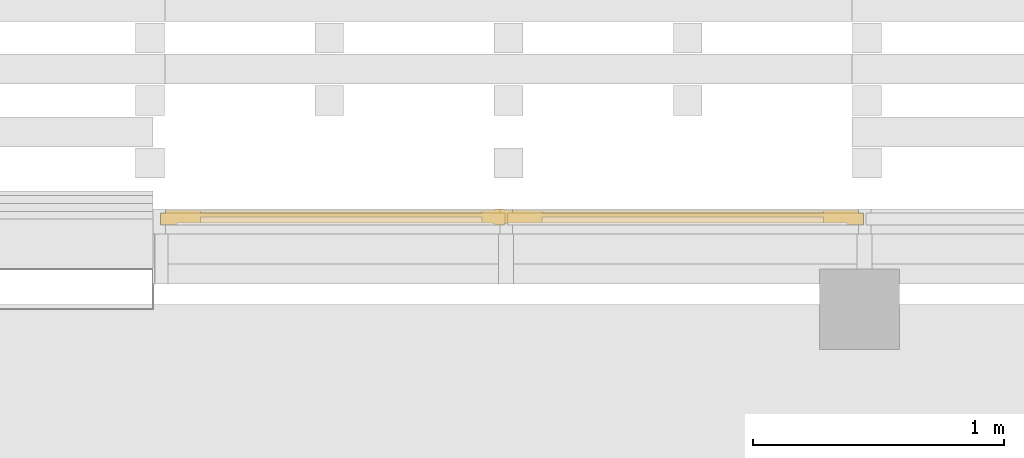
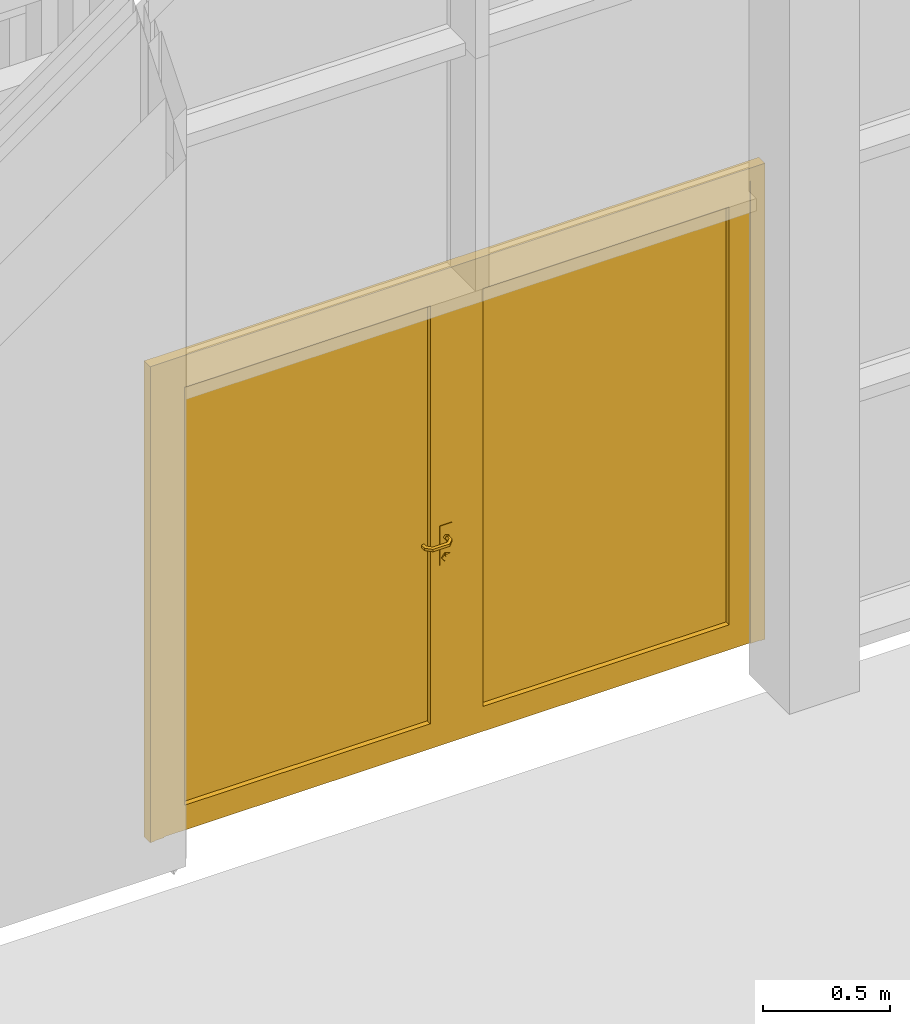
# One storey, part 251 of 260: 1 door, 1 element without a shape of its own.
"""IFC2X3 building model written with IfcOpenShell, lengths in millimetres."""

from ifc_helpers import new_model, entity, si_unit, converted_unit, derived_unit, money_unit, direction, frame, origin_with_axes, place, context, subcontext, project, spatial, open_shell, faceted_brep, surface_model, material, material_list, type_object, element, aggregate, save


model = new_model("IFC2X3")

# Units and contexts
model_context = context("Model", 3, precision=0.01, world=origin_with_axes(), true_north=direction((0.0, 1.0)))
body_context = subcontext(model_context, "Body", "Model", "MODEL_VIEW")
ifc_project = project(units=[si_unit("LENGTHUNIT", "METRE", prefix="MILLI"), si_unit("AREAUNIT", "SQUARE_METRE"), si_unit("VOLUMEUNIT", "CUBIC_METRE"), converted_unit("PLANEANGLEUNIT", "DEGREE", entity("IfcPlaneAngleMeasure", 0.0174532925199), si_unit("PLANEANGLEUNIT", "RADIAN"), dimensions=[0, 0, 0, 0, 0, 0, 0]), money_unit("EUR"), converted_unit("TIMEUNIT", "Year", entity("IfcTimeMeasure", 31556926.0), si_unit("TIMEUNIT", "SECOND"), dimensions=[0, 0, 1, 0, 0, 0, 0]), si_unit("MASSUNIT", "GRAM", prefix="KILO"), si_unit("THERMODYNAMICTEMPERATUREUNIT", "DEGREE_CELSIUS"), si_unit("LUMINOUSINTENSITYUNIT", "LUMEN"), si_unit("ENERGYUNIT", "JOULE", prefix="MEGA"), derived_unit("THERMALCONDUCTANCEUNIT", [(si_unit("POWERUNIT", "WATT"), 1), (si_unit("LENGTHUNIT", "METRE"), -1), (si_unit("THERMODYNAMICTEMPERATUREUNIT", "KELVIN"), -1)]), derived_unit("SPECIFICHEATCAPACITYUNIT", [(si_unit("ENERGYUNIT", "JOULE"), 1), (si_unit("MASSUNIT", "GRAM", prefix="KILO"), -1), (si_unit("THERMODYNAMICTEMPERATUREUNIT", "KELVIN"), -1)]), derived_unit("MASSDENSITYUNIT", [(si_unit("MASSUNIT", "GRAM", prefix="KILO"), 1), (si_unit("VOLUMEUNIT", "CUBIC_METRE"), -1)])], contexts=[model_context])

# Site, building, storey
site_placement = place(None, origin_with_axes())
site = spatial("IfcSite", under=ifc_project, at=site_placement, Name="Kolde pst 67a", CompositionType="ELEMENT")
building_placement = place(site_placement, origin_with_axes())
building = spatial("IfcBuilding", under=site, at=building_placement, Name="Riigigümnaasium", CompositionType="ELEMENT")
storey_placement = place(building_placement, origin_with_axes())
storey = spatial("IfcBuildingStorey", under=building, at=storey_placement, Name="1. korrus", CompositionType="ELEMENT", Elevation=0.0)

# Curtain wall, door
curtain_wall_type = type_object("IfcCurtainWallType", Name="Curtain Wall Type", PredefinedType="NOTDEFINED")
curtain_wall_placement = place(storey_placement, frame((10366.0828546, 84639.9999608, 0.0), z_axis=(0.0, 0.0, 1.0), x_axis=(1.0, 0.0, 0.0)))
curtain_wall = element("IfcCurtainWall", 1, at=curtain_wall_placement, inside=storey, type_object=curtain_wall_type, Name="KLAASFASSAAD")
ifc_material_1 = material(Name="_METALL - alumiinium")
ifc_material_2 = material(Name="_KLAAS - kirgas")
ifc_material_3 = material(Name="_METALL - roostevaba terasleht, harjatud, 1mm")
ifc_material_list = material_list([ifc_material_1, ifc_material_2, ifc_material_3])
door_style = type_object("IfcDoorStyle", Name="1379 x 1145 x 48", ConstructionType="NOTDEFINED", OperationType="DOUBLE_DOOR_SINGLE_SWING", ParameterTakesPrecedence=False, Sizeable=False)
door_placement = place(curtain_wall_placement, frame((-2136.96846863, 0.0, 1150.0), z_axis=(0.0, 0.0, 1.0), x_axis=(1.0, 0.0, 0.0)))
door = element("IfcDoor", 2, at=door_placement, type_object=door_style, material=ifc_material_list, Name="Kahepoolne välisuks", ObjectType="DOOR", OverallHeight=2275.0, OverallWidth=2763.58, context=body_context, shape_type="SurfaceModel", body=[
    faceted_brep([(1396.96848817, -21.0, -1150.0), (1396.96848817, -16.0, -1150.0), (1396.96848817, -16.0, 1124.99999805), (1396.96848817, -21.0, 1124.99999805), (1351.96848817, -21.0, -1150.0), (1351.96848817, -16.0, -1150.0), (1351.96848817, -16.0, 1079.99999805), (1351.96848817, -21.0, 1079.99999805)], [[[0, 1, 2, 3]], [[4, 5, 1, 0]], [[1, 5, 6, 2]], [[3, 2, 6, 7]], [[0, 3, 7, 4]], [[7, 6, 5, 4]]]),
    faceted_brep([(-1366.61411117, -21.0, 1124.99999805), (-1366.61411117, -16.0, 1124.99999805), (-1321.61411117, -16.0, 1079.99999805), (-1321.61411117, -21.0, 1079.99999805), (1396.96848817, -21.0, 1124.99999805), (1396.96848817, -16.0, 1124.99999805), (1351.96848817, -16.0, 1079.99999805), (1351.96848817, -21.0, 1079.99999805)], [[[0, 1, 2, 3]], [[4, 5, 1, 0]], [[1, 5, 6, 2]], [[3, 2, 6, 7]], [[0, 3, 7, 4]], [[7, 6, 5, 4]]]),
    faceted_brep([(-1366.61411117, -21.0, -1150.0), (-1366.61411117, -16.0, -1150.0), (-1321.61411117, -16.0, -1150.0), (-1321.61411117, -21.0, -1150.0), (-1366.61411117, -21.0, 1124.99999805), (-1366.61411117, -16.0, 1124.99999805), (-1321.61411117, -16.0, 1079.99999805), (-1321.61411117, -21.0, 1079.99999805)], [[[0, 1, 2, 3]], [[4, 5, 1, 0]], [[1, 5, 6, 2]], [[3, 2, 6, 7]], [[0, 3, 7, 4]], [[7, 6, 5, 4]]]),
    faceted_brep([(1396.96848817, -16.0, -1150.0), (1396.96848817, 34.0, -1150.0), (1396.96848817, 34.0, 1124.99999805), (1396.96848817, -16.0, 1124.99999805), (1376.96848817, -16.0, -1150.0), (1376.96848817, 34.0, -1150.0), (1376.96848817, 34.0, 1104.99999805), (1376.96848817, -16.0, 1104.99999805)], [[[0, 1, 2, 3]], [[4, 5, 1, 0]], [[1, 5, 6, 2]], [[3, 2, 6, 7]], [[0, 3, 7, 4]], [[7, 6, 5, 4]]]),
    faceted_brep([(-1366.61411117, -16.0, 1124.99999805), (-1366.61411117, 34.0, 1124.99999805), (-1346.61411117, 34.0, 1104.99999805), (-1346.61411117, -16.0, 1104.99999805), (1396.96848817, -16.0, 1124.99999805), (1396.96848817, 34.0, 1124.99999805), (1376.96848817, 34.0, 1104.99999805), (1376.96848817, -16.0, 1104.99999805)], [[[0, 1, 2, 3]], [[4, 5, 1, 0]], [[1, 5, 6, 2]], [[3, 2, 6, 7]], [[0, 3, 7, 4]], [[7, 6, 5, 4]]]),
    faceted_brep([(-1366.61411117, -16.0, -1150.0), (-1366.61411117, 34.0, -1150.0), (-1346.61411117, 34.0, -1150.0), (-1346.61411117, -16.0, -1150.0), (-1366.61411117, -16.0, 1124.99999805), (-1366.61411117, 34.0, 1124.99999805), (-1346.61411117, 34.0, 1104.99999805), (-1346.61411117, -16.0, 1104.99999805)], [[[0, 1, 2, 3]], [[4, 5, 1, 0]], [[1, 5, 6, 2]], [[3, 2, 6, 7]], [[0, 3, 7, 4]], [[7, 6, 5, 4]]]),
    faceted_brep([(1416.968481, -24.0, -1150.0), (1416.968481, 24.0, -1150.0), (1416.968481, 24.0, 1144.99999088), (1416.968481, -24.0, 1144.99999088), (1396.96848817, -24.0, -1150.0), (1396.96848817, 24.0, -1150.0), (1396.96848817, 24.0, 1124.99999805), (1396.96848817, -24.0, 1124.99999805)], [[[0, 1, 2, 3]], [[4, 5, 1, 0]], [[1, 5, 6, 2]], [[3, 2, 6, 7]], [[0, 3, 7, 4]], [[7, 6, 5, 4]]]),
    faceted_brep([(1416.968481, -24.0, 1144.99999088), (1416.968481, 24.0, 1144.99999088), (-1386.614104, 24.0, 1144.99999088), (-1386.614104, -24.0, 1144.99999088), (1396.96848817, -24.0, 1124.99999805), (1396.96848817, 24.0, 1124.99999805), (-1366.61411117, 24.0, 1124.99999805), (-1366.61411117, -24.0, 1124.99999805)], [[[0, 1, 2, 3]], [[4, 5, 1, 0]], [[1, 5, 6, 2]], [[3, 2, 6, 7]], [[0, 3, 7, 4]], [[7, 6, 5, 4]]]),
    faceted_brep([(-1386.614104, -24.0, 1144.99999088), (-1386.614104, 24.0, 1144.99999088), (-1386.614104, 24.0, -1150.0), (-1386.614104, -24.0, -1150.0), (-1366.61411117, -24.0, 1124.99999805), (-1366.61411117, 24.0, 1124.99999805), (-1366.61411117, 24.0, -1150.0), (-1366.61411117, -24.0, -1150.0)], [[[0, 1, 2, 3]], [[4, 5, 1, 0]], [[1, 5, 6, 2]], [[3, 2, 6, 7]], [[0, 3, 7, 4]], [[7, 6, 5, 4]]]),
    faceted_brep([(-1226.61411117, -16.0, -1030.0), (-1226.61411117, 34.0, -1030.0), (-1226.61411117, 34.0, 984.999998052), (-1226.61411117, -16.0, 984.999998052), (-1346.61411117, -16.0, -1150.0), (-1346.61411117, 34.0, -1150.0), (-1346.61411117, 34.0, 1104.99999805), (-1346.61411117, -16.0, 1104.99999805)], [[[0, 1, 2, 3]], [[4, 5, 1, 0]], [[1, 5, 6, 2]], [[3, 2, 6, 7]], [[0, 3, 7, 4]], [[7, 6, 5, 4]]]),
    faceted_brep([(15.1771885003, -16.0, -1150.0), (15.1771885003, 34.0, -1150.0), (15.1771885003, 34.0, 1104.99999805), (15.1771885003, -16.0, 1104.99999805), (-104.8228115, -16.0, -1030.0), (-104.8228115, 34.0, -1030.0), (-104.8228115, 34.0, 984.999998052), (-104.8228115, -16.0, 984.999998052)], [[[0, 1, 2, 3]], [[4, 5, 1, 0]], [[1, 5, 6, 2]], [[3, 2, 6, 7]], [[0, 3, 7, 4]], [[7, 6, 5, 4]]]),
    faceted_brep([(15.1771885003, -16.0, -1150.0), (15.1771885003, 34.0, -1150.0), (-104.8228115, 34.0, -1030.0), (-104.8228115, -16.0, -1030.0), (-1346.61411117, -16.0, -1150.0), (-1346.61411117, 34.0, -1150.0), (-1226.61411117, 34.0, -1030.0), (-1226.61411117, -16.0, -1030.0)], [[[0, 1, 2, 3]], [[4, 5, 1, 0]], [[1, 5, 6, 2]], [[3, 2, 6, 7]], [[0, 3, 7, 4]], [[7, 6, 5, 4]]]),
    faceted_brep([(-1346.61411117, -16.0, 1104.99999805), (-1346.61411117, 34.0, 1104.99999805), (-1226.61411117, 34.0, 984.999998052), (-1226.61411117, -16.0, 984.999998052), (15.1771885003, -16.0, 1104.99999805), (15.1771885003, 34.0, 1104.99999805), (-104.8228115, 34.0, 984.999998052), (-104.8228115, -16.0, 984.999998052)], [[[0, 1, 2, 3]], [[4, 5, 1, 0]], [[1, 5, 6, 2]], [[3, 2, 6, 7]], [[0, 3, 7, 4]], [[7, 6, 5, 4]]]),
    faceted_brep([(-1226.61411117, 8.0, -1030.0), (-1226.61411117, 24.0, -1030.0), (-104.8228115, 24.0, -1030.0), (-104.8228115, 8.0, -1030.0), (-1226.61411117, 8.0, 984.999998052), (-1226.61411117, 24.0, 984.999998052), (-104.8228115, 24.0, 984.999998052), (-104.8228115, 8.0, 984.999998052)], [[[0, 1, 2, 3]], [[4, 5, 1, 0]], [[1, 5, 6, 2]], [[3, 2, 6, 7]], [[0, 3, 7, 4]], [[7, 6, 5, 4]]]),
    faceted_brep([(-6.32281149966, 34.0, -90.0), (-6.32281149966, 37.0, -90.0), (-63.3228114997, 37.0, -90.0), (-63.3228114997, 34.0, -90.0), (-6.32281149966, 34.0, -280.0), (-6.32281149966, 37.0, -280.0), (-63.3228114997, 37.0, -280.0), (-63.3228114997, 34.0, -280.0)], [[[0, 1, 2, 3]], [[4, 5, 1, 0]], [[1, 5, 6, 2]], [[3, 2, 6, 7]], [[0, 3, 7, 4]], [[7, 6, 5, 4]]]),
    faceted_brep([(-38.5310154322, 47.0, -161.412678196), (-38.8400324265, 37.0, -162.363734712), (-47.8228114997, 37.0, -150.0), (-46.8228114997, 47.0, -150.0), (-25.1146075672, 47.0, -157.053423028), (-24.3055905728, 37.0, -157.64120828), (-24.3055905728, 37.0, -142.35879172), (-38.8400324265, 37.0, -137.636265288), (-38.5310154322, 47.0, -138.587321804), (-25.1146075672, 47.0, -142.946576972)], [[[0, 1, 2, 3]], [[4, 5, 1, 0]], [[2, 1, 5, 6, 7]], [[3, 2, 7, 8]], [[3, 8, 9, 4, 0]], [[9, 6, 5, 4]], [[8, 7, 6, 9]]]),
    faceted_brep([(-41.0031513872, 41.0, -264.021130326), (-41.6211853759, 37.0, -265.923243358), (-56.8228114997, 37.0, -245.0), (-54.8228114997, 41.0, -245.0), (-18.6424716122, 41.0, -256.755705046), (-17.0244376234, 37.0, -257.93127555), (-17.0244376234, 37.0, -232.06872445), (-41.6211853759, 37.0, -224.076756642), (-41.0031513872, 41.0, -225.978869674), (-18.6424716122, 41.0, -233.244294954)], [[[0, 1, 2, 3]], [[4, 5, 1, 0]], [[2, 1, 5, 6, 7]], [[3, 2, 7, 8]], [[3, 8, 9, 4, 0]], [[9, 6, 5, 4]], [[8, 7, 6, 9]]]),
    faceted_brep([(-36.9859304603, 43.0, -242.657395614), (-37.2949474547, 41.0, -243.60845213), (-42.8228114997, 41.0, -236.0), (-41.8228114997, 43.0, -236.0), (-29.159692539, 43.0, -240.114496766), (-28.3506755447, 41.0, -240.702282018), (-28.3506755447, 41.0, -231.297717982), (-37.2949474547, 41.0, -228.39154787), (-36.9859304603, 43.0, -229.342604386), (-29.159692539, 43.0, -231.885503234)], [[[0, 1, 2, 3]], [[4, 5, 1, 0]], [[2, 1, 5, 6, 7]], [[3, 2, 7, 8]], [[3, 8, 9, 4, 0]], [[9, 6, 5, 4]], [[8, 7, 6, 9]]]),
    surface_model("IfcShellBasedSurfaceModel", [(-44.8228114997, 47.0, -150.0), (-44.8228114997, 62.8578643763, -150.0), (-37.9129814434, 65.7200096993, -159.510565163), (-37.9129814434, 47.0, -159.510565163), (-37.9129814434, 47.0, -140.489434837), (-37.9129814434, 65.7200096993, -140.489434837), (-58.9649471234, 77.0, -150.0), (-56.1028018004, 83.9098300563, -159.510565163), (-26.7326415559, 70.3510581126, -155.877852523), (-26.7326415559, 47.0, -155.877852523), (-26.7326415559, 47.0, -144.122147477), (-26.7326415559, 70.3510581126, -144.122147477), (-56.1028018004, 83.9098300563, -140.489434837), (-120.680675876, 77.0, -150.0), (-123.542821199, 83.9098300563, -159.510565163), (-51.4717533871, 95.0901699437, -155.877852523), (-51.4717533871, 95.0901699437, -144.122147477), (-123.542821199, 83.9098300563, -140.489434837), (-134.8228115, 62.8578643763, -150.0), (-141.732641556, 65.7200096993, -159.510565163), (-128.173869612, 95.0901699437, -155.877852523), (-128.173869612, 95.0901699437, -144.122147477), (-141.732641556, 65.7200096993, -140.489434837), (-134.8228115, 47.0, -150.0), (-141.732641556, 47.0, -159.510565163), (-152.912981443, 70.3510581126, -155.877852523), (-152.912981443, 70.3510581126, -144.122147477), (-141.732641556, 47.0, -140.489434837), (-152.912981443, 47.0, -144.122147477), (-152.912981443, 47.0, -155.877852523)], [open_shell([[[0, 1, 2, 3]], [[4, 5, 1, 0]], [[1, 6, 7, 2]], [[3, 2, 8, 9]], [[10, 11, 5, 4]], [[5, 12, 6, 1]], [[6, 13, 14, 7]], [[2, 7, 15, 8]], [[9, 8, 11, 10]], [[11, 16, 12, 5]], [[12, 17, 13, 6]], [[13, 18, 19, 14]], [[7, 14, 20, 15]], [[8, 15, 16, 11]], [[16, 21, 17, 12]], [[17, 22, 18, 13]], [[18, 23, 24, 19]], [[14, 19, 25, 20]], [[15, 20, 21, 16]], [[21, 26, 22, 17]], [[22, 27, 23, 18]], [[23, 27, 28, 29, 24]], [[19, 24, 29, 25]], [[20, 25, 26, 21]], [[26, 28, 27, 22]], [[25, 29, 28, 26]]])]),
    faceted_brep([(-6.32281149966, -16.0, -90.0), (-63.3228114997, -16.0, -90.0), (-63.3228114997, -19.0, -90.0), (-6.32281149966, -19.0, -90.0), (-6.32281149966, -16.0, -280.0), (-63.3228114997, -16.0, -280.0), (-63.3228114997, -19.0, -280.0), (-6.32281149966, -19.0, -280.0)], [[[0, 1, 2, 3]], [[0, 4, 5, 1]], [[1, 5, 6, 2]], [[3, 2, 6, 7]], [[4, 0, 3, 7]], [[5, 4, 7, 6]]]),
    faceted_brep([(-38.5310154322, -29.0, -161.412678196), (-46.8228114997, -29.0, -150.0), (-47.8228114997, -19.0, -150.0), (-38.8400324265, -19.0, -162.363734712), (-25.1146075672, -29.0, -157.053423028), (-25.1146075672, -29.0, -142.946576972), (-38.5310154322, -29.0, -138.587321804), (-38.8400324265, -19.0, -137.636265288), (-24.3055905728, -19.0, -142.35879172), (-24.3055905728, -19.0, -157.64120828)], [[[0, 1, 2, 3]], [[1, 0, 4, 5, 6]], [[1, 6, 7, 2]], [[2, 7, 8, 9, 3]], [[4, 0, 3, 9]], [[5, 4, 9, 8]], [[6, 5, 8, 7]]]),
    faceted_brep([(-41.0031513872, -23.0, -264.021130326), (-54.8228114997, -23.0, -245.0), (-56.8228114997, -19.0, -245.0), (-41.6211853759, -19.0, -265.923243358), (-18.6424716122, -23.0, -256.755705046), (-18.6424716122, -23.0, -233.244294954), (-41.0031513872, -23.0, -225.978869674), (-41.6211853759, -19.0, -224.076756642), (-17.0244376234, -19.0, -232.06872445), (-17.0244376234, -19.0, -257.93127555)], [[[0, 1, 2, 3]], [[1, 0, 4, 5, 6]], [[1, 6, 7, 2]], [[2, 7, 8, 9, 3]], [[4, 0, 3, 9]], [[5, 4, 9, 8]], [[6, 5, 8, 7]]]),
    faceted_brep([(-36.9859304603, -25.0, -242.657395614), (-41.8228114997, -25.0, -236.0), (-42.8228114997, -23.0, -236.0), (-37.2949474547, -23.0, -243.60845213), (-29.159692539, -25.0, -240.114496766), (-29.159692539, -25.0, -231.885503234), (-36.9859304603, -25.0, -229.342604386), (-37.2949474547, -23.0, -228.39154787), (-28.3506755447, -23.0, -231.297717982), (-28.3506755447, -23.0, -240.702282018)], [[[0, 1, 2, 3]], [[1, 0, 4, 5, 6]], [[1, 6, 7, 2]], [[2, 7, 8, 9, 3]], [[4, 0, 3, 9]], [[5, 4, 9, 8]], [[6, 5, 8, 7]]]),
    surface_model("IfcShellBasedSurfaceModel", [(-44.8228114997, -29.0, -150.0), (-37.9129814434, -29.0, -159.510565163), (-37.9129814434, -47.7200096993, -159.510565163), (-44.8228114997, -44.8578643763, -150.0), (-26.7326415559, -29.0, -155.877852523), (-26.7326415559, -52.3510581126, -155.877852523), (-56.1028018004, -65.9098300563, -159.510565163), (-58.9649471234, -59.0, -150.0), (-37.9129814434, -29.0, -140.489434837), (-37.9129814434, -47.7200096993, -140.489434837), (-26.7326415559, -29.0, -144.122147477), (-26.7326415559, -52.3510581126, -144.122147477), (-51.4717533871, -77.0901699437, -155.877852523), (-123.542821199, -65.9098300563, -159.510565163), (-120.680675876, -59.0, -150.0), (-56.1028018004, -65.9098300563, -140.489434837), (-51.4717533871, -77.0901699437, -144.122147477), (-128.173869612, -77.0901699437, -155.877852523), (-141.732641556, -47.7200096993, -159.510565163), (-134.8228115, -44.8578643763, -150.0), (-123.542821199, -65.9098300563, -140.489434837), (-128.173869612, -77.0901699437, -144.122147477), (-152.912981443, -52.3510581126, -155.877852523), (-141.732641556, -29.0, -159.510565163), (-134.8228115, -29.0, -150.0), (-141.732641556, -47.7200096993, -140.489434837), (-152.912981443, -52.3510581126, -144.122147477), (-152.912981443, -29.0, -155.877852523), (-152.912981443, -29.0, -144.122147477), (-141.732641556, -29.0, -140.489434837)], [open_shell([[[0, 1, 2, 3]], [[1, 4, 5, 2]], [[3, 2, 6, 7]], [[8, 0, 3, 9]], [[4, 10, 11, 5]], [[2, 5, 12, 6]], [[7, 6, 13, 14]], [[9, 3, 7, 15]], [[10, 8, 9, 11]], [[5, 11, 16, 12]], [[6, 12, 17, 13]], [[14, 13, 18, 19]], [[15, 7, 14, 20]], [[11, 9, 15, 16]], [[12, 16, 21, 17]], [[13, 17, 22, 18]], [[19, 18, 23, 24]], [[20, 14, 19, 25]], [[16, 15, 20, 21]], [[17, 21, 26, 22]], [[18, 22, 27, 23]], [[24, 23, 27, 28, 29]], [[25, 19, 24, 29]], [[21, 20, 25, 26]], [[22, 26, 28, 27]], [[26, 25, 29, 28]]])]),
    faceted_brep([(135.1771885, -16.0, -1030.0), (135.1771885, 34.0, -1030.0), (135.1771885, 34.0, 984.999998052), (135.1771885, -16.0, 984.999998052), (15.1771885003, -16.0, -1150.0), (15.1771885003, 34.0, -1150.0), (15.1771885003, 34.0, 1104.99999805), (15.1771885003, -16.0, 1104.99999805)], [[[0, 1, 2, 3]], [[4, 5, 1, 0]], [[1, 5, 6, 2]], [[3, 2, 6, 7]], [[0, 3, 7, 4]], [[7, 6, 5, 4]]]),
    faceted_brep([(1376.96848817, -16.0, -1150.0), (1376.96848817, 34.0, -1150.0), (1376.96848817, 34.0, 1104.99999805), (1376.96848817, -16.0, 1104.99999805), (1256.96848817, -16.0, -1030.0), (1256.96848817, 34.0, -1030.0), (1256.96848817, 34.0, 984.999998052), (1256.96848817, -16.0, 984.999998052)], [[[0, 1, 2, 3]], [[4, 5, 1, 0]], [[1, 5, 6, 2]], [[3, 2, 6, 7]], [[0, 3, 7, 4]], [[7, 6, 5, 4]]]),
    faceted_brep([(1376.96848817, -16.0, -1150.0), (1376.96848817, 34.0, -1150.0), (1256.96848817, 34.0, -1030.0), (1256.96848817, -16.0, -1030.0), (15.1771885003, -16.0, -1150.0), (15.1771885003, 34.0, -1150.0), (135.1771885, 34.0, -1030.0), (135.1771885, -16.0, -1030.0)], [[[0, 1, 2, 3]], [[4, 5, 1, 0]], [[1, 5, 6, 2]], [[3, 2, 6, 7]], [[0, 3, 7, 4]], [[7, 6, 5, 4]]]),
    faceted_brep([(15.1771885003, -16.0, 1104.99999805), (15.1771885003, 34.0, 1104.99999805), (135.1771885, 34.0, 984.999998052), (135.1771885, -16.0, 984.999998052), (1376.96848817, -16.0, 1104.99999805), (1376.96848817, 34.0, 1104.99999805), (1256.96848817, 34.0, 984.999998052), (1256.96848817, -16.0, 984.999998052)], [[[0, 1, 2, 3]], [[4, 5, 1, 0]], [[1, 5, 6, 2]], [[3, 2, 6, 7]], [[0, 3, 7, 4]], [[7, 6, 5, 4]]]),
    faceted_brep([(135.1771885, 8.0, -1030.0), (135.1771885, 24.0, -1030.0), (1256.96848817, 24.0, -1030.0), (1256.96848817, 8.0, -1030.0), (135.1771885, 8.0, 984.999998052), (135.1771885, 24.0, 984.999998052), (1256.96848817, 24.0, 984.999998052), (1256.96848817, 8.0, 984.999998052)], [[[0, 1, 2, 3]], [[4, 5, 1, 0]], [[1, 5, 6, 2]], [[3, 2, 6, 7]], [[0, 3, 7, 4]], [[7, 6, 5, 4]]]),
])
aggregate(curtain_wall, [door])

save(model, "model.ifc")
